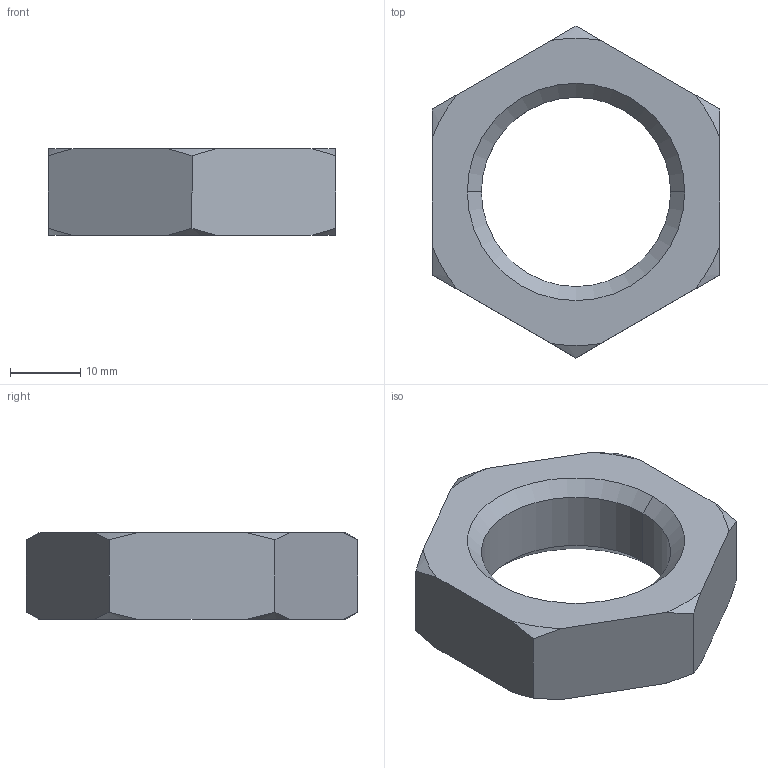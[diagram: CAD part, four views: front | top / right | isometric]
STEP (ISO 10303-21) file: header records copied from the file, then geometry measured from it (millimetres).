
FILE_DESCRIPTION (( 'STEP AP203' ), '1' );
FILE_NAME ('P0306.270-200-A2.step', '2018-12-15T14:55:18', ( '' ), ( '' ), 'SwSTEP 2.0', 'SolidWorks 2017', '' );
FILE_SCHEMA (( 'CONFIG_CONTROL_DESIGN' ));
Length unit declared in the file: millimetre
Products named in the file (1): P0306.270-200-A2
Bounding box: 41 x 47.34 x 12.4 mm (x, y, z)
Volume: 10573.1 mm3; surface area: 4355.3 mm2
Topology: 1 solids, 1 shells, 26 faces, 68 edges, 44 vertices
Faces by surface type: cone 16, plane 8, cylinder 2
Entity records: 905 total; most frequent: CARTESIAN_POINT 211, ORIENTED_EDGE 136, DIRECTION 118, EDGE_CURVE 68, AXIS2_PLACEMENT_3D 47, VERTEX_POINT 44, EDGE_LOOP 28, FACE_OUTER_BOUND 26
